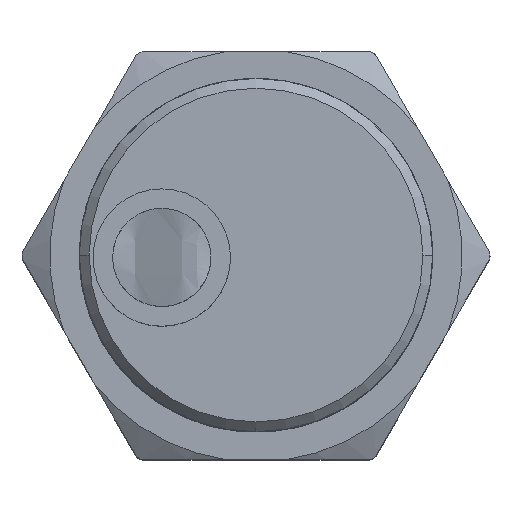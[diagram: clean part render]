
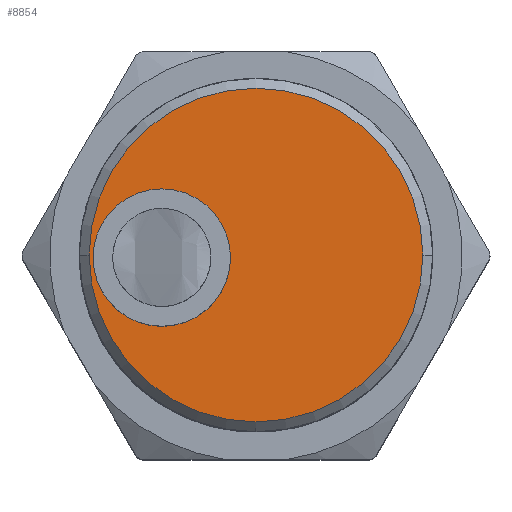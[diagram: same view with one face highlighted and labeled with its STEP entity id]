
A CAD part, top view. The second image highlights one B-rep face of the part: STEP entity #8854.
In plain terms, the highlighted planar face has unit normal (0, 0, 1).
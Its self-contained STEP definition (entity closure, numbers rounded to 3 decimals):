
#4709=CARTESIAN_POINT('',(0.,0.,55.));
#4710=DIRECTION('',(0.,0.,1.));
#4711=DIRECTION('',(1.,0.,0.));
#4712=AXIS2_PLACEMENT_3D('',#4709,#4710,#4711);
#4714=CARTESIAN_POINT('',(0.,0.,55.));
#4715=DIRECTION('',(0.,0.,1.));
#4716=DIRECTION('',(-1.,0.,0.));
#4717=AXIS2_PLACEMENT_3D('',#4714,#4715,#4716);
#4719=CARTESIAN_POINT('',(-4.8,-0.134,55.));
#4720=DIRECTION('',(0.,0.,1.));
#4721=DIRECTION('',(-1.,0.,0.));
#4722=AXIS2_PLACEMENT_3D('',#4719,#4720,#4721);
#4724=CARTESIAN_POINT('',(-4.8,-0.134,55.));
#4725=DIRECTION('',(0.,0.,1.));
#4726=DIRECTION('',(1.,0.,0.));
#4727=AXIS2_PLACEMENT_3D('',#4724,#4725,#4726);
#6166=CARTESIAN_POINT('',(-8.5,0.,
55.));
#6167=VERTEX_POINT('',#6166);
#6168=CARTESIAN_POINT('',(8.5,0.,55.));
#6169=VERTEX_POINT('',#6168);
#6482=CARTESIAN_POINT('',(-8.3,-0.134,55.));
#6483=CARTESIAN_POINT('',(-1.3,-0.134,55.));
#6484=VERTEX_POINT('',#6482);
#6485=VERTEX_POINT('',#6483);
#8839=CARTESIAN_POINT('',(0.,0.,55.));
#8840=DIRECTION('',(0.,0.,1.));
#8841=DIRECTION('',(1.,0.,0.));
#8842=AXIS2_PLACEMENT_3D('',#8839,#8840,#8841);
#8843=PLANE('',#8842);
#8844=ORIENTED_EDGE('',*,*,#8818,.F.);
#8845=ORIENTED_EDGE('',*,*,#8832,.F.);
#8846=EDGE_LOOP('',(#8844,#8845));
#8847=FACE_OUTER_BOUND('',#8846,.F.);
#8849=ORIENTED_EDGE('',*,*,#8848,.T.);
#8851=ORIENTED_EDGE('',*,*,#8850,.T.);
#8852=EDGE_LOOP('',(#8849,#8851));
#8853=FACE_BOUND('',#8852,.F.);
#4713=CIRCLE('',#4712,8.5);
#4718=CIRCLE('',#4717,8.5);
#4723=CIRCLE('',#4722,3.5);
#4728=CIRCLE('',#4727,3.5);
#8818=EDGE_CURVE('',#6169,#6167,#4713,.T.);
#8832=EDGE_CURVE('',#6167,#6169,#4718,.T.);
#8848=EDGE_CURVE('',#6484,#6485,#4723,.T.);
#8850=EDGE_CURVE('',#6485,#6484,#4728,.T.);
#8854=ADVANCED_FACE('',(#8847,#8853),#8843,.T.);
